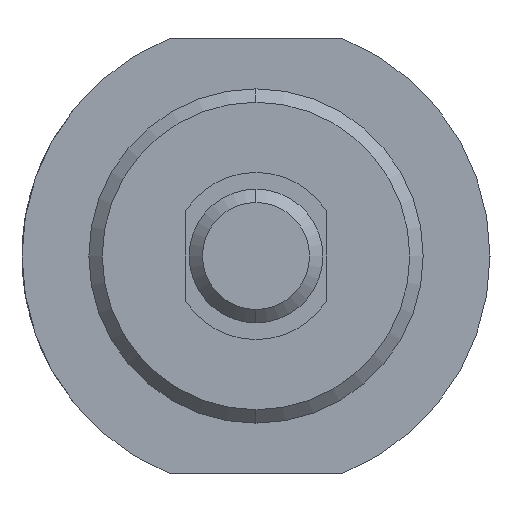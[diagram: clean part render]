
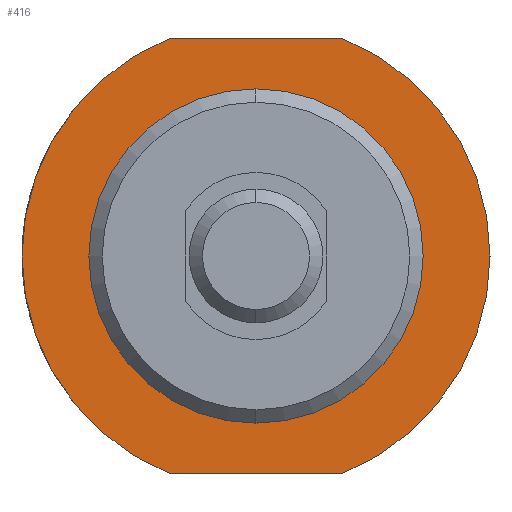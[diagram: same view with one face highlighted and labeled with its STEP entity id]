
A CAD part, left-side view. The second image highlights one B-rep face of the part: STEP entity #416.
In plain terms, the highlighted planar face has unit normal (-1, 0, 0).
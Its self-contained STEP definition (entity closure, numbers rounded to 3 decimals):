
#52 = VERTEX_POINT ( 'NONE', #270 ) ;
#90 = CARTESIAN_POINT ( 'NONE',  ( 28., 0., 0. ) ) ;
#160 = DIRECTION ( 'NONE',  ( 1., 0., 0. ) ) ;
#204 = VERTEX_POINT ( 'NONE', #654 ) ;
#209 = LINE ( 'NONE', #1087, #450 ) ;
#214 = CARTESIAN_POINT ( 'NONE',  ( 28., 0., -5. ) ) ;
#228 = EDGE_LOOP ( 'NONE', ( #1438, #727, #1340, #1568 ) ) ;
#270 = CARTESIAN_POINT ( 'NONE',  ( 28., -2.598, -6.5 ) ) ;
#287 = LINE ( 'NONE', #635, #628 ) ;
#291 = AXIS2_PLACEMENT_3D ( 'NONE', #1450, #407, #1130 ) ;
#333 = FACE_OUTER_BOUND ( 'NONE', #228, .T. ) ;
#344 = DIRECTION ( 'NONE',  ( 0., 0., 1. ) ) ;
#365 = DIRECTION ( 'NONE',  ( -1., 0., 0. ) ) ;
#384 = DIRECTION ( 'NONE',  ( 0., -1., 0. ) ) ;
#401 = CIRCLE ( 'NONE', #291, 7. ) ;
#407 = DIRECTION ( 'NONE',  ( -1., 0., 0. ) ) ;
#416 = ADVANCED_FACE ( 'NONE', ( #1280, #333 ), #1185, .F. ) ;
#420 = VERTEX_POINT ( 'NONE', #1420 ) ;
#445 = DIRECTION ( 'NONE',  ( 0., 0., -1. ) ) ;
#450 = VECTOR ( 'NONE', #384, 1000. ) ;
#456 = DIRECTION ( 'NONE',  ( -1., 0., 0. ) ) ;
#513 = EDGE_CURVE ( 'NONE', #204, #561, #1224, .T. ) ;
#514 = CARTESIAN_POINT ( 'NONE',  ( 28., 0., 5. ) ) ;
#561 = VERTEX_POINT ( 'NONE', #1192 ) ;
#628 = VECTOR ( 'NONE', #1485, 1000. ) ;
#635 = CARTESIAN_POINT ( 'NONE',  ( 28., 2.598, -6.5 ) ) ;
#654 = CARTESIAN_POINT ( 'NONE',  ( 28., 2.598, 6.5 ) ) ;
#688 = AXIS2_PLACEMENT_3D ( 'NONE', #1296, #160, #445 ) ;
#725 = CIRCLE ( 'NONE', #1368, 5. ) ;
#727 = ORIENTED_EDGE ( 'NONE', *, *, #895, .F. ) ;
#852 = EDGE_CURVE ( 'NONE', #1178, #1114, #725, .T. ) ;
#881 = EDGE_LOOP ( 'NONE', ( #909, #965 ) ) ;
#895 = EDGE_CURVE ( 'NONE', #204, #420, #209, .T. ) ;
#909 = ORIENTED_EDGE ( 'NONE', *, *, #1203, .F. ) ;
#956 = CARTESIAN_POINT ( 'NONE',  ( 28., 0., 0. ) ) ;
#965 = ORIENTED_EDGE ( 'NONE', *, *, #852, .F. ) ;
#991 = AXIS2_PLACEMENT_3D ( 'NONE', #1161, #365, #1299 ) ;
#1032 = EDGE_CURVE ( 'NONE', #52, #561, #287, .T. ) ;
#1063 = AXIS2_PLACEMENT_3D ( 'NONE', #90, #1301, #344 ) ;
#1087 = CARTESIAN_POINT ( 'NONE',  ( 28., 2.598, 6.5 ) ) ;
#1114 = VERTEX_POINT ( 'NONE', #514 ) ;
#1130 = DIRECTION ( 'NONE',  ( 0., 0., 1. ) ) ;
#1161 = CARTESIAN_POINT ( 'NONE',  ( 28., 0., 0. ) ) ;
#1178 = VERTEX_POINT ( 'NONE', #214 ) ;
#1183 = EDGE_CURVE ( 'NONE', #52, #420, #401, .T. ) ;
#1185 = PLANE ( 'NONE',  #688 ) ;
#1192 = CARTESIAN_POINT ( 'NONE',  ( 28., 2.598, -6.5 ) ) ;
#1203 = EDGE_CURVE ( 'NONE', #1114, #1178, #1415, .T. ) ;
#1224 = CIRCLE ( 'NONE', #1063, 7. ) ;
#1280 = FACE_BOUND ( 'NONE', #881, .T. ) ;
#1296 = CARTESIAN_POINT ( 'NONE',  ( 28., 5., 0. ) ) ;
#1299 = DIRECTION ( 'NONE',  ( 0., 0., 1. ) ) ;
#1301 = DIRECTION ( 'NONE',  ( -1., 0., 0. ) ) ;
#1340 = ORIENTED_EDGE ( 'NONE', *, *, #513, .T. ) ;
#1368 = AXIS2_PLACEMENT_3D ( 'NONE', #956, #456, #1486 ) ;
#1415 = CIRCLE ( 'NONE', #991, 5. ) ;
#1420 = CARTESIAN_POINT ( 'NONE',  ( 28., -2.598, 6.5 ) ) ;
#1438 = ORIENTED_EDGE ( 'NONE', *, *, #1183, .T. ) ;
#1450 = CARTESIAN_POINT ( 'NONE',  ( 28., 0., 0. ) ) ;
#1485 = DIRECTION ( 'NONE',  ( 0., 1., 0. ) ) ;
#1486 = DIRECTION ( 'NONE',  ( 0., 0., 1. ) ) ;
#1568 = ORIENTED_EDGE ( 'NONE', *, *, #1032, .F. ) ;
